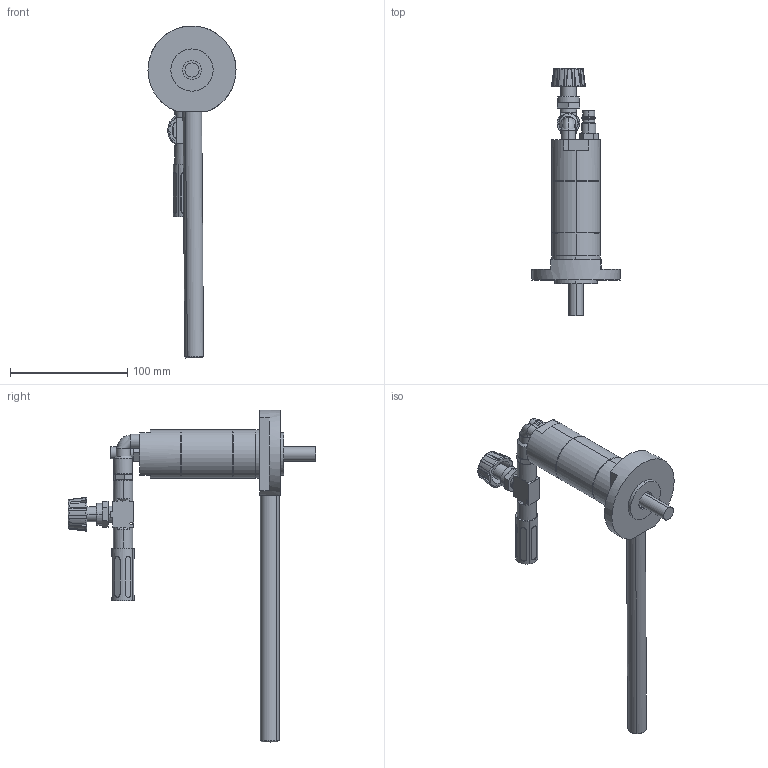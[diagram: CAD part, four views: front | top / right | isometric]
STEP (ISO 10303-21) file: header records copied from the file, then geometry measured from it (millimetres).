
FILE_DESCRIPTION (( 'STEP AP214' ), '1' );
FILE_NAME ('PLM381180.STEP', '2019-05-22T09:15:57', ( '' ), ( '' ), 'SwSTEP 2.0', 'SolidWorks 2018', '' );
FILE_SCHEMA (( 'AUTOMOTIVE_DESIGN' ));
Length unit declared in the file: millimetre
Products named in the file (11): Stecknippel PLM; Halterohr PLM; PLM Flansch; Verschluss PLM; Schalldämpfer klein 2; Stellrad V2; V2; Doppelnippel 6F00248; Winkel; PLM38; PLM381180
Assembly tree (10 placements, depth 2):
  PLM381180
    PLM38
    Winkel
    Doppelnippel 6F00248
    V2
    Stellrad V2
    Schalldämpfer klein 2
    Verschluss PLM
    PLM Flansch
    Halterohr PLM
    Stecknippel PLM
Bounding box: 75 x 210.94 x 282.66 mm (x, y, z)
Volume: 265867.5 mm3; surface area: 72013.7 mm2
Topology: 10 solids, 10 shells, 366 faces, 858 edges, 542 vertices
Faces by surface type: plane 172, cylinder 125, cone 57, torus 12
Entity records: 11807 total; most frequent: CARTESIAN_POINT 2768, DIRECTION 1785, ORIENTED_EDGE 1696, EDGE_CURVE 848, AXIS2_PLACEMENT_3D 687, VERTEX_POINT 542, EDGE_LOOP 416, LINE 411
